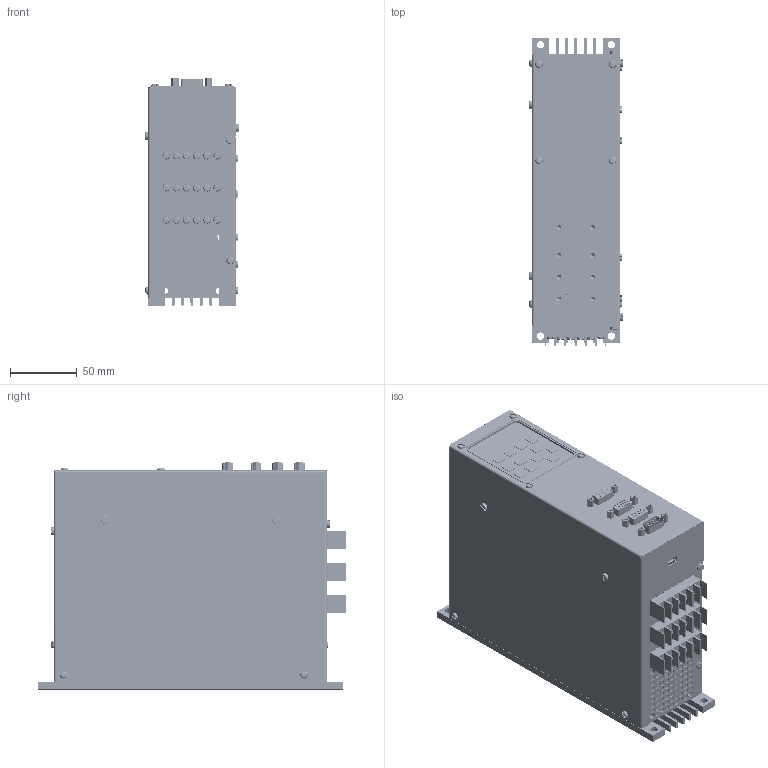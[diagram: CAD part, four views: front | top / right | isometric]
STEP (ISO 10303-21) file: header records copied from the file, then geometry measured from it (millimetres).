
FILE_DESCRIPTION (( 'STEP AP203' ), '1' );
FILE_NAME ('×àñòîòíûé ïðåîáðàçîâàòåëü v3 ÑÏÑ-15 â ñáîðå ×Ï ÑÏÑ-15.STEP', '2009-11-11T08:19:19', ( 'User' ), ( 'Microsoft Corporation' ), 'SwSTEP 2.0', 'SolidWorks 2008', '' );
FILE_SCHEMA (( 'CONFIG_CONTROL_DESIGN' ));
Products named in the file (54): Äèîäíûé ìîñò VD1 - KBU10_Ïî óìîë÷àíèþ; òðàíçèñòîð IRGIB15B60KD1 äëÿ ×Ï ÑÏÑ-15_Ïî óìîë÷àíèþ; êîíäåíñàòîð 1000õ25Â 13õ25 ESX Series ×Ï ÑÏÑ-15_Ïî óìîë÷àíèþ; êîíäåíñàòîð 330õ25Â 10õ13 ESX Series ×Ï ÑÏÑ-15_Ïî óìîë÷àíèþ; êîíäåíñàòîð 5õ11 ESX Series ×Ï ÑÏÑ-15_Ïî óìîë÷àíèþ; ïëàòà ïóëüòà óïðàâëåíèÿ â ñáîðå ×Ï ÑÏÑ-15_Ïî óìîë÷àíèþ; ñáîðêà ïëàòû ïðîöåññîðà è ïëàòû ââîäà_âûâîäà ×Ï ÑÏÑ-15_Ïî óìîë÷àíèþ; ïëåíî÷íàÿ êëàâèàòóðà ×Ï ÑÏÑ-15_ñ êðóãîâûì øëåéôîì; ðàçúåì IDC 20 ãíåçäî íà øëåéô äëÿ ×Ï ÑÏÑ-15_Ïî óìîë÷àíèþ; ðàçúåì IDC 10 ãíåçäî íà øëåéô äëÿ ×Ï ÑÏÑ-15_Ïî óìîë÷àíèþ; 鎔艜 齴儗 M3 x 6; 鎔艜 齴儗 M3 x 12; 鎔艜 齴儗 M3 x 8; âèíò øåñòèãðàííûé ñ âíóòðåííåé ðåçüáîé L8 äëÿ ×Ï ÑÏÑ-15_Ïî óìîë÷àíèþ; ïå÷àòíàÿ ïëàòà èíòåðôåéñà äàò÷èêà õîëëà äëÿ ×Ï ÑÏÑ-15_Ïî óìîë÷àíèþ; òîðìîçíîé ðåçèñòîð SQP-15 äëÿ ×Ï ÑÏÑ-15_Ïî óìîë÷àíèþ; ×àñòîòíûé ïðåîáðàçîâàòåëü v3 ÑÏÑ-15 â ñáîðå ×Ï ÑÏÑ-15; ïëàòà ïå÷àòíàÿ â ñáîðå v3äëÿ ×Ï ÑÏÑ-15_Ïî óìîë÷àíèþ; ïëàòà ïå÷àòíàÿ v3 äëÿ ×Ï_Ïî óìîë÷àíèþ; êîíäåíñàòîð Hitano 450v 68mF_Ïî óìîë÷àíèþ; ïëàòà DCDC êîíâåðòåðà â ñáîðå ×Ï ÑÏÑ-15_Ïî óìîë÷àíèþ; ïëàòà DCDC êîíâåðòåðà ×Ï ÑÏÑ-15_Ïî óìîë÷àíèþ; êîíäåíñàòîð Ê73-17 0,047 630 Â ×Ï ÑÏÑ-15_Ïî óìîë÷àíèþ; êàòóøêà RCH855 ×Ï ÑÏÑ-15_Ïî óìîë÷àíèþ; òðàíñôîðìàòîð TSD-0815-5+15 ×Ï ÑÏÑ-15_Ïî óìîë÷àíèþ; âòóëêà øåñòèãðàííàÿ Ì3 L10_Ïî óìîë÷àíèþ; ðàçúåì IDC-20MS(BH-20) íà ïëàòó ×Ï ÑÏÑ-15_Ïî óìîë÷àíèþ; ðàçúåì IDC2-10 (BH2-10) íà ïëàòó ×Ï ÑÏÑ-15_Ïî óìîë÷àíèþ; ðàçúåì IDC2-20 (BH2-20) íà ïëàòó ×Ï ÑÏÑ-15_Ïî óìîë÷àíèþ; ïëàòà ïóëüòà óïðàâëåíèÿ ×Ï ÑÏÑ-15_Ïî óìîë÷àíèþ; èíäèêàòîð LTD315_64-XX-PF ×Ï ÑÏÑ-15_Ïî óìîë÷àíèþ; ðàçúåì íà ïëàòó ïîä øëåéô ×Ï ÑÏÑ-15_Ïî óìîë÷àíèþ; Âèíò Ì3õ6 DIN 7991_Ïî óìîë÷àíèþ; ðàçðàáîòêà òÿíóòîãî ïðîôèëÿ ðàäèàòîðà äëÿ ×Ï ÑÏÑ-15v.2_îáðàáîòàííûé ðàäèàòîð; àëþì ïàíåëüêà ïîä êëàâó äëÿ ×Ï ÑÏÑ-15_Ïî óìîë÷àíèþ; âåíòèëÿòîð 50õ50õ10 TFD-5010M12C äëÿ ×Ï ÑÏÑ-15_Ïî óìîë÷àíèþ; Êëåììíèê íà 4 êîíòàêòà Ò31-ÀÌ11-04 ×Ï ÑÏÑ-15_Ïî óìîë÷àíèþ; êðûøêà v3 äëÿ ×Ï ÑÏÑ-15_Ïî óìîë÷àíèþ; Ãàéêà M3; Øàéáà ï3 ÃÎÑÒ6402-70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
Assembly tree (115 placements, depth 4):
  ×àñòîòíûé ïðåîáðàçîâàòåëü v3 ÑÏÑ-15 â ñáîðå ×Ï ÑÏÑ-15
    àëþì ïàíåëüêà ïîä êëàâó äëÿ ×Ï ÑÏÑ-15_Ïî óìîë÷àíèþ
    ðàçúåì IDC 10 ãíåçäî íà øëåéô äëÿ ×Ï ÑÏÑ-15_Ïî óìîë÷àíèþ  x2
    ñàìîðåç ïî ìåòàëëó Ì3 ×Ï ÑÏÑ-15_Ïî óìîë÷àíèþ  x6
    ñáîðêà ïëàòû ïðîöåññîðà è ïëàòû ââîäà_âûâîäà ×Ï ÑÏÑ-15_Ïî óìîë÷àíèþ
    Øàéáà ï3 ÃÎÑÒ6402-70  x6
    鎔艜 齴儗 M3 x 4  x5
    Êëåììíèê íà 4 êîíòàêòà Ò31-ÀÌ11-04 ×Ï ÑÏÑ-15_Ïî óìîë÷àíèþ  x3
    鎔艜 齴儗 M3 x 8  x8
    âåíòèëÿòîð 50õ50õ10 TFD-5010M12C äëÿ ×Ï ÑÏÑ-15_Ïî óìîë÷àíèþ
    âèíò øåñòèãðàííûé ñ âíóòðåííåé ðåçüáîé L8 äëÿ ×Ï ÑÏÑ-15_Ïî óìîë÷àíèþ  x8
    Ãàéêà M3  x6
    鎔艜 齴儗 M3 x 6  x4
    鎔艜 齴儗 M3 x 12  x6
    ïëàòà ñèëîâàÿ â ñáîðå ñ GBT ìîäóëåì ×Ï ÑÏÑ-15_Ïî óìîë÷àíèþ
      GBT ìîäóëü äëÿ ×Ï ÑÏÑ-15_Ïî óìîë÷àíèþ
      âèíò øåñòèãðàííûé ñ âíóòðåííåé ðåçüáîé L8 äëÿ ×Ï ÑÏÑ-15_Ïî óìîë÷àíèþ  x2
      ïëàòà ñèëîâàÿ äëÿ GBT ìîäóëÿ äëÿ ×Ï ÑÏÑ-15_Ïî óìîë÷àíèþ
    ïëåíî÷íàÿ êëàâèàòóðà ×Ï ÑÏÑ-15_ñ êðóãîâûì øëåéôîì
    ðàçúåì IDC 20 ãíåçäî íà øëåéô äëÿ ×Ï ÑÏÑ-15_Ïî óìîë÷àíèþ
    îñíîâàíèå 3.1 êîðïóñà ÷àñòîòíèêà_Ïî óìîë÷àíèþ
    êðûøêà v3 äëÿ ×Ï ÑÏÑ-15_Ïî óìîë÷àíèþ
    ïëàòà ïå÷àòíàÿ â ñáîðå v3äëÿ ×Ï ÑÏÑ-15_Ïî óìîë÷àíèþ
      âòóëêà øåñòèãðàííàÿ Ì3 L10_Ïî óìîë÷àíèþ  x5
      êîíäåíñàòîð Hitano 450v 68mF_Ïî óìîë÷àíèþ  x6
      ïëàòà DCDC êîíâåðòåðà â ñáîðå ×Ï ÑÏÑ-15_Ïî óìîë÷àíèþ  x2
        êîíäåíñàòîð Ê73-17 0,047 630 Â ×Ï ÑÏÑ-15_Ïî óìîë÷àíèþ
        êàòóøêà RCH855 ×Ï ÑÏÑ-15_Ïî óìîë÷àíèþ
        ïëàòà DCDC êîíâåðòåðà ×Ï ÑÏÑ-15_Ïî óìîë÷àíèþ
        êîíäåíñàòîð 5õ11 ESX Series ×Ï ÑÏÑ-15_Ïî óìîë÷àíèþ
        êîíäåíñàòîð 1000õ25Â 13õ25 ESX Series ×Ï ÑÏÑ-15_Ïî óìîë÷àíèþ
        òðàíñôîðìàòîð TSD-0815-5+15 ×Ï ÑÏÑ-15_Ïî óìîë÷àíèþ
        êîíäåíñàòîð 330õ25Â 10õ13 ESX Series ×Ï ÑÏÑ-15_Ïî óìîë÷àíèþ
      êîíäåíñàòîð 330õ25Â 10õ13 ESX Series ×Ï ÑÏÑ-15_Ïî óìîë÷àíèþ
      êîíäåíñàòîð 5õ11 ESX Series ×Ï ÑÏÑ-15_Ïî óìîë÷àíèþ
      ðàçúåì IDC2-20 (BH2-20) íà ïëàòó ×Ï ÑÏÑ-15_Ïî óìîë÷àíèþ
      êîíäåíñàòîð 5õ11 ESX Series ×Ï ÑÏÑ-15_Ïî óìîë÷àíèþ
      ðàçúåì IDC2-10 (BH2-10) íà ïëàòó ×Ï ÑÏÑ-15_Ïî óìîë÷àíèþ  x2
      ðàçúåì IDC-20MS(BH-20) íà ïëàòó ×Ï ÑÏÑ-15_Ïî óìîë÷àíèþ  x2
      êîíäåíñàòîð 330õ25Â 10õ13 ESX Series ×Ï ÑÏÑ-15_Ïî óìîë÷àíèþ
      òðàíçèñòîð IRGIB15B60KD1 äëÿ ×Ï ÑÏÑ-15_Ïî óìîë÷àíèþ
      êîíäåíñàòîð 5õ11 ESX Series ×Ï ÑÏÑ-15_Ïî óìîë÷àíèþ
      êîíäåíñàòîð 5õ11 ESX Series ×Ï ÑÏÑ-15_Ïî óìîë÷àíèþ
      Äèîäíûé ìîñò VD1 - KBU10_Ïî óìîë÷àíèþ
      êîíäåíñàòîð 330õ25Â 10õ13 ESX Series ×Ï ÑÏÑ-15_Ïî óìîë÷àíèþ
      ïëàòà ïå÷àòíàÿ v3 äëÿ ×Ï_Ïî óìîë÷àíèþ
    Âèíò Ì3õ6 DIN 7991_Ïî óìîë÷àíèþ  x4
    ïëàòà ïóëüòà óïðàâëåíèÿ â ñáîðå ×Ï ÑÏÑ-15_Ïî óìîë÷àíèþ
      èíäèêàòîð LTD315_64-XX-PF ×Ï ÑÏÑ-15_Ïî óìîë÷àíèþ
      ðàçúåì íà ïëàòó ïîä øëåéô ×Ï ÑÏÑ-15_Ïî óìîë÷àíèþ
      ïëàòà ïóëüòà óïðàâëåíèÿ ×Ï ÑÏÑ-15_Ïî óìîë÷àíèþ
      èíäèêàòîð LTD315_64-XX-PF ×Ï ÑÏÑ-15_Ïî óìîë÷àíèþ
    òîðìîçíîé ðåçèñòîð SQP-15 äëÿ ×Ï ÑÏÑ-15_Ïî óìîë÷àíèþ  x2
    ðàçðàáîòêà òÿíóòîãî ïðîôèëÿ ðàäèàòîðà äëÿ ×Ï ÑÏÑ-15v.2_îáðàáîòàííûé ðàäèàòîð
    ïå÷àòíàÿ ïëàòà èíòåðôåéñà äàò÷èêà õîëëà äëÿ ×Ï ÑÏÑ-15_Ïî óìîë÷àíèþ
Bounding box: 70 x 230.4 x 170 mm (x, y, z)
Volume: 606356.8 mm3; surface area: 540350 mm2
Topology: 117 solids, 117 shells, 6127 faces, 15344 edges, 9986 vertices
Faces by surface type: plane 3553, cylinder 1911, torus 364, cone 231, bspline 68
Entity records: 146325 total; most frequent: CARTESIAN_POINT 27883, DIRECTION 23463, ORIENTED_EDGE 22362, EDGE_CURVE 11181, AXIS2_PLACEMENT_3D 8107, VERTEX_POINT 7325, VECTOR 7249, LINE 7249
